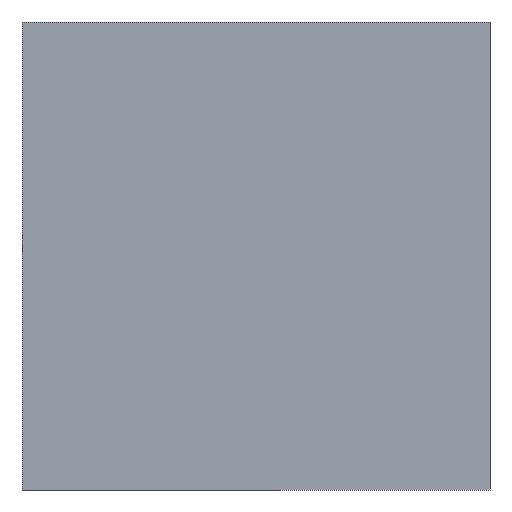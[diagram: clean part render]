
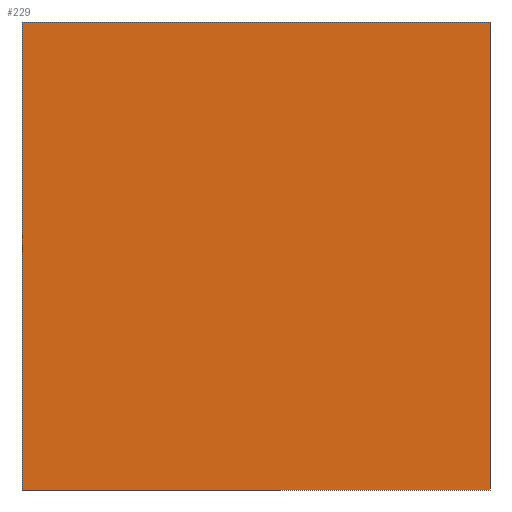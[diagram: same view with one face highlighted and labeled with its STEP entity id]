
A CAD part, front view. The second image highlights one B-rep face of the part: STEP entity #229.
In plain terms, the highlighted planar face has unit normal (0, -1, 0).
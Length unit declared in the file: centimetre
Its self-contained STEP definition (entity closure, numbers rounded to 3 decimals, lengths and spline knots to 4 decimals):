
#13 = DIRECTION ( 'NONE',  ( 0., 0., 1. ) ) ;
#23 = ORIENTED_EDGE ( 'NONE', *, *, #179, .T. ) ;
#26 = CARTESIAN_POINT ( 'NONE',  ( 1000., 0., 1000. ) ) ;
#27 = EDGE_LOOP ( 'NONE', ( #23, #715, #721, #338 ) ) ;
#40 = CARTESIAN_POINT ( 'NONE',  ( 0., 0., 0. ) ) ;
#43 = CARTESIAN_POINT ( 'NONE',  ( 0., 0., 1000. ) ) ;
#87 = CARTESIAN_POINT ( 'NONE',  ( 0., 0., 1000. ) ) ;
#89 = CARTESIAN_POINT ( 'NONE',  ( 0., 0., 0. ) ) ;
#119 = AXIS2_PLACEMENT_3D ( 'NONE', #638, #576, #13 ) ;
#146 = VECTOR ( 'NONE', #590, 100. ) ;
#179 = EDGE_CURVE ( 'NONE', #487, #511, #369, .T. ) ;
#229 = ADVANCED_FACE ( 'NONE', ( #243 ), #413, .F. ) ;
#243 = FACE_OUTER_BOUND ( 'NONE', #27, .T. ) ;
#245 = VECTOR ( 'NONE', #266, 100. ) ;
#247 = LINE ( 'NONE', #26, #146 ) ;
#250 = DIRECTION ( 'NONE',  ( 1., 0., 0. ) ) ;
#266 = DIRECTION ( 'NONE',  ( 0., 0., -1. ) ) ;
#277 = VECTOR ( 'NONE', #250, 100. ) ;
#321 = EDGE_CURVE ( 'NONE', #522, #511, #247, .T. ) ;
#327 = LINE ( 'NONE', #43, #245 ) ;
#329 = DIRECTION ( 'NONE',  ( 1., 0., 0. ) ) ;
#338 = ORIENTED_EDGE ( 'NONE', *, *, #671, .T. ) ;
#369 = LINE ( 'NONE', #89, #277 ) ;
#393 = VERTEX_POINT ( 'NONE', #87 ) ;
#413 = PLANE ( 'NONE',  #119 ) ;
#447 = VECTOR ( 'NONE', #329, 100. ) ;
#472 = EDGE_CURVE ( 'NONE', #393, #522, #663, .T. ) ;
#487 = VERTEX_POINT ( 'NONE', #40 ) ;
#490 = CARTESIAN_POINT ( 'NONE',  ( 1000., 0., 1000. ) ) ;
#511 = VERTEX_POINT ( 'NONE', #550 ) ;
#522 = VERTEX_POINT ( 'NONE', #490 ) ;
#550 = CARTESIAN_POINT ( 'NONE',  ( 1000., 0., 0. ) ) ;
#576 = DIRECTION ( 'NONE',  ( 0., 1., 0. ) ) ;
#590 = DIRECTION ( 'NONE',  ( 0., 0., -1. ) ) ;
#638 = CARTESIAN_POINT ( 'NONE',  ( 0., 0., 1000. ) ) ;
#663 = LINE ( 'NONE', #714, #447 ) ;
#671 = EDGE_CURVE ( 'NONE', #393, #487, #327, .T. ) ;
#714 = CARTESIAN_POINT ( 'NONE',  ( 0., 0., 1000. ) ) ;
#715 = ORIENTED_EDGE ( 'NONE', *, *, #321, .F. ) ;
#721 = ORIENTED_EDGE ( 'NONE', *, *, #472, .F. ) ;
